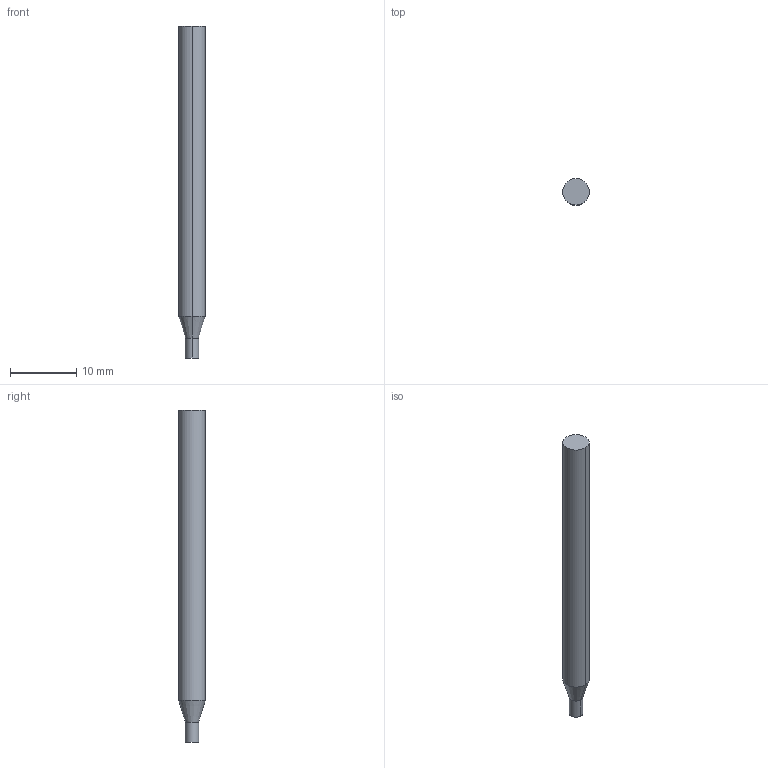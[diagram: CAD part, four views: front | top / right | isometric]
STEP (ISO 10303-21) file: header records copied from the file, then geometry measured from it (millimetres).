
FILE_DESCRIPTION((' '),'2;1');
FILE_NAME( '3MVSM0200AH.stp', '2026-01-21T19:27:38', (' '), ('--- Datakit www.datakit.com---'), ' Datakit CrossCadWare V2025.4 Sep 19 2025', 'Mastercam 2027', ' ');
FILE_SCHEMA(('AUTOMOTIVE_DESIGN { 1 0 10303 214 1 1 1 1 }'));
Length unit declared in the file: inch
Products named in the file (1): 3MVSM0200AH
Bounding box: 4 x 4 x 50 mm (x, y, z)
Volume: 583 mm3; surface area: 616.4 mm2
Topology: 1 solids, 1 shells, 8 faces, 14 edges, 8 vertices
Faces by surface type: cylinder 4, plane 2, cone 2
Entity records: 264 total; most frequent: DIRECTION 48, CARTESIAN_POINT 35, ORIENTED_EDGE 28, AXIS2_PLACEMENT_3D 21, EDGE_CURVE 14, VERTEX_POINT 8, CIRCLE 8, EDGE_LOOP 8
